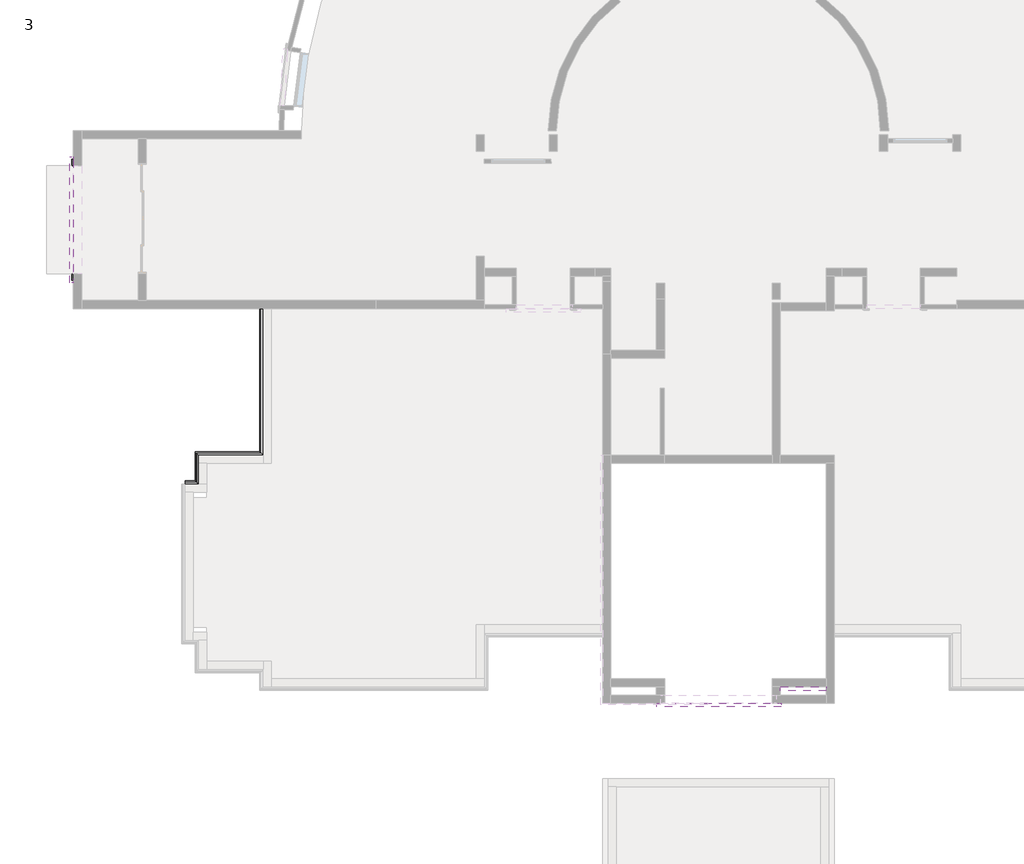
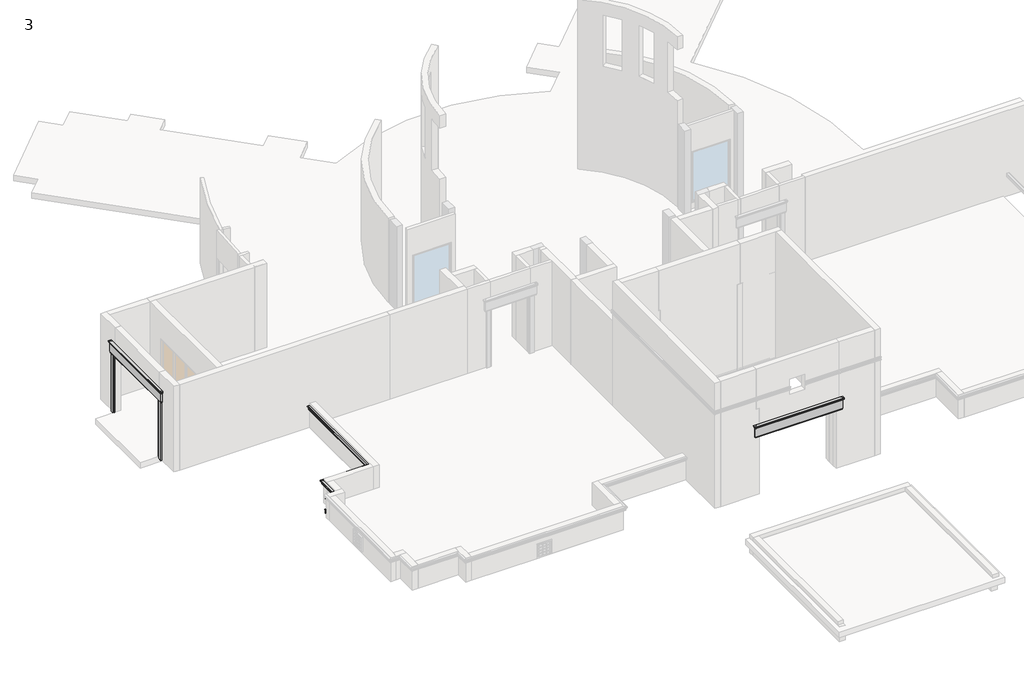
# One storey, part 6 of 12: 9 proxies.
"""IFC4 building model written with IfcOpenShell, lengths in millimetres."""

from ifc_helpers import new_model, si_unit, point, frame, frame_2d, origin, place, context, project, spatial, polyline, circle_curve, ellipse_curve, trimmed, segment, composite_curve, outline, extrude, element, save
from ifc_brep_helpers import plane_surface, cylinder_surface, revolved_surface, advanced_brep

model = new_model("IFC4")

# Units and contexts
model_context = context("Model", 3, world=origin())
ifc_project = project(units=[si_unit("LENGTHUNIT", "METRE", prefix="MILLI")], contexts=[model_context])

# Site, building, storey
site = spatial("IfcSite", under=ifc_project)
building = spatial("IfcBuilding", under=site)
storey = spatial("IfcBuildingStorey", under=building, Name="3", Elevation=3581.4)

# Proxies
placement = place(None, origin())
element("IfcBuildingElementProxy", 1, Name="Cornice", ObjectType="Cornice", at=placement, inside=storey, context=model_context, shape_type="SweptSolid", body=[
    extrude(outline(polyline([(-26637.5780453, -272.7681763), (-26637.5780453, -456.9181763), (-26675.6780453, -456.9181763), (-26675.6780453, -425.1681763), (-26688.3780453, -425.1681763), (-26688.3780453, -272.7681763), (-26637.5780453, -272.7681763)])), frame((0.0, 0.0, 3581.4), z_axis=(0.0, 0.0, 1.0), x_axis=(1.0, 0.0, 0.0)), (0.0, 0.0, 1.0), 2438.4),
])
element("IfcBuildingElementProxy", 2, Name="Cornice", ObjectType="Cornice", at=placement, inside=storey, context=model_context, shape_type="SweptSolid", body=[
    extrude(outline(polyline([(-26637.5780453, -3689.0681763), (-26688.3780453, -3689.0681763), (-26688.3780453, -3536.6681763), (-26675.6780453, -3536.6681763), (-26675.6780453, -3504.9181763), (-26637.5780453, -3504.9181763), (-26637.5780453, -3689.0681763)])), frame((0.0, 0.0, 3581.4), z_axis=(0.0, 0.0, 1.0), x_axis=(1.0, 0.0, 0.0)), (0.0, 0.0, 1.0), 2438.4),
])
element("IfcBuildingElementProxy", 3, Name="Cornice 2", ObjectType="Cornice 2", at=placement, inside=storey, context=model_context, shape_type="SweptSolid", body=[
    extrude(outline(composite_curve([segment(polyline([(-15310.3693311, 6819.9), (-15202.4193311, 6819.9), (-15202.4193311, 6324.6), (-15263.1124745, 6324.6), (-15263.1124745, 6369.05), (-15275.8124745, 6369.05), (-15275.8124745, 6724.65), (-15291.3193311, 6724.65), (-15291.3193311, 6743.7)]), True, "CONTINUOUS"), segment(trimmed(circle_curve(frame_2d((-15278.89139, 6769.1)), 28.2774419), [point((-15291.3193311, 6743.7))], [point((-15291.3193311, 6794.5))], False, "CARTESIAN"), True, "CONTINUOUS"), segment(polyline([(-15291.3193311, 6794.5), (-15310.3693311, 6794.5), (-15310.3693311, 6819.9)]), True, "CONTINUOUS")], self_intersect=False)), frame((-11436.5950906, 0.0, 0.0), z_axis=(1.0, 0.0, 0.0), x_axis=(0.0, 1.0, 0.0)), (0.0, 0.0, 1.0), 1295.2507056),
    extrude(outline(composite_curve([segment(polyline([(-15310.3693311, 6819.9), (-15202.4193311, 6819.9), (-15202.4193311, 6324.6), (-15263.1124745, 6324.6), (-15263.1124745, 6369.05), (-15275.8124745, 6369.05), (-15275.8124745, 6724.65), (-15291.3193311, 6724.65), (-15291.3193311, 6743.7)]), True, "CONTINUOUS"), segment(trimmed(circle_curve(frame_2d((-15278.89139, 6769.1)), 28.2774419), [point((-15291.3193311, 6743.7))], [point((-15291.3193311, 6794.5))], False, "CARTESIAN"), True, "CONTINUOUS"), segment(polyline([(-15291.3193311, 6794.5), (-15310.3693311, 6794.5), (-15310.3693311, 6819.9)]), True, "CONTINUOUS")], self_intersect=False)), frame((-6636.144385, 0.0, 0.0), z_axis=(1.0, 0.0, 0.0), x_axis=(0.0, 1.0, 0.0)), (0.0, 0.0, 1.0), 1295.5492944),
])
element("IfcBuildingElementProxy", 4, Name="Cornice 2", ObjectType="Cornice 2", at=placement, inside=storey, context=model_context, shape_type="AdvancedBrep", body=[
    advanced_brep(
    [(-26637.5780453, -3765.2681763, 6515.1), (-26637.5780453, -3765.2681763, 6489.7), (-26637.5780453, -3746.2181763, 6489.7), (-26637.5780453, -3746.2181763, 6438.9), (-26637.5780453, -3746.2181763, 6419.85), (-26637.5780453, -3730.7113196, 6419.85), (-26637.5780453, -3730.7113196, 6064.25), (-26637.5780453, -3718.0113196, 6064.25), (-26637.5780453, -3718.0113196, 6019.8), (-26637.5780453, -3657.3181763, 6019.8), (-26637.5780453, -3657.3181763, 6515.1), (-26745.5280453, -3765.2681763, 6515.1), (-26745.5280453, -3765.2681763, 6489.7), (-26726.4780453, -3746.2181763, 6489.7), (-26726.4780453, -3746.2181763, 6438.9), (-26726.4780453, -3746.2181763, 6419.85), (-26710.9711886, -3730.7113196, 6419.85), (-26710.9711886, -3730.7113196, 6064.25), (-26698.2711886, -3718.0113196, 6064.25), (-26698.2711886, -3718.0113196, 6019.8), (-26745.5280453, -196.5681763, 6515.1), (-26745.5280453, -196.5681763, 6489.7), (-26726.4780453, -215.6181763, 6489.7), (-26726.4780453, -215.6181763, 6438.9), (-26726.4780453, -215.6181763, 6419.85), (-26710.9711886, -231.1250329, 6419.85), (-26710.9711886, -231.1250329, 6064.25), (-26698.2711886, -243.8250329, 6064.25), (-26698.2711886, -243.8250329, 6019.8), (-26637.5780453, -304.5181763, 6019.8), (-26637.5780453, -304.5181763, 6515.1), (-26637.5780453, -196.5681763, 6515.1), (-26637.5780453, -243.8250329, 6019.8), (-26637.5780453, -243.8250329, 6064.25), (-26637.5780453, -231.1250329, 6064.25), (-26637.5780453, -231.1250329, 6419.85), (-26637.5780453, -215.6181763, 6419.85), (-26637.5780453, -215.6181763, 6438.9), (-26637.5780453, -215.6181763, 6489.7), (-26637.5780453, -196.5681763, 6489.7)],
    [
        (0, 1),
        (1, 2),
        (2, 3, circle_curve(frame((-26637.5780453, -3733.7902351, 6464.3), z_axis=(1.0, 0.0, 0.0), x_axis=(0.0, -1.0, 0.0)), 28.2774419)),
        (3, 4),
        (4, 5),
        (5, 6),
        (6, 7),
        (7, 8),
        (8, 9),
        (9, 10),
        (10, 0),
        (0, 11),
        (11, 12),
        (12, 1),
        (12, 13),
        (13, 2),
        (13, 14, ellipse_curve(frame((-26714.0501041, -3733.7902351, 6464.3), z_axis=(0.7071067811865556, -0.7071067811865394, 0.0), x_axis=(0.7071067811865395, 0.7071067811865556, 0.0)), 39.9903419, 28.2774419)),
        (14, 3),
        (14, 15),
        (15, 4),
        (15, 16),
        (16, 5),
        (16, 17),
        (17, 6),
        (17, 18),
        (18, 7),
        (18, 19),
        (19, 8),
        (19, 9),
        (10, 11),
        (11, 20),
        (20, 21),
        (21, 12),
        (21, 22),
        (22, 13),
        (22, 23, ellipse_curve(frame((-26714.0501041, -228.0461174, 6464.3), z_axis=(-0.7071067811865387, -0.7071067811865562, 0.0), x_axis=(0.7071067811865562, -0.7071067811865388, 0.0)), 39.9903419, 28.2774419)),
        (23, 14),
        (23, 24),
        (24, 15),
        (24, 25),
        (25, 16),
        (25, 26),
        (26, 17),
        (26, 27),
        (27, 18),
        (27, 28),
        (28, 19),
        (28, 29),
        (29, 9),
        (29, 30),
        (30, 10),
        (30, 20),
        (31, 30),
        (29, 32),
        (32, 33),
        (33, 34),
        (34, 35),
        (35, 36),
        (36, 37),
        (37, 38, circle_curve(frame((-26637.5780453, -228.0461174, 6464.3), z_axis=(1.0, 0.0, 0.0), x_axis=(0.0, 1.0, 0.0)), 28.2774419)),
        (38, 39),
        (39, 31),
        (20, 31),
        (39, 21),
        (38, 22),
        (37, 23),
        (36, 24),
        (35, 25),
        (34, 26),
        (33, 27),
        (32, 28),
    ],
    [
        plane_surface(frame((-26637.5780453, -3504.9181763, 6019.8), z_axis=(1.0, 0.0, 0.0), x_axis=(0.0, -1.0, 0.0))),
        plane_surface(frame((-26637.5780453, -3765.2681763, 6515.1), z_axis=(0.0, -1.0, 0.0), x_axis=(-1.0, 0.0, 0.0))),
        plane_surface(frame((-26637.5780453, -3765.2681763, 6489.7), z_axis=(0.0, 0.0, -1.0), x_axis=(-1.0, 0.0, 0.0))),
        cylinder_surface(frame((-26637.5780453, -3733.7902351, 6464.3), z_axis=(1.0, 0.0, 0.0), x_axis=(0.0, -1.0, 0.0)), 28.2774419),
        plane_surface(frame((-26637.5780453, -3746.2181763, 6438.9), z_axis=(0.0, -1.0, 0.0), x_axis=(-1.0, 0.0, 0.0))),
        plane_surface(frame((-26637.5780453, -3746.2181763, 6419.85), z_axis=(0.0, 0.0, -1.0), x_axis=(-1.0, 0.0, 0.0))),
        plane_surface(frame((-26637.5780453, -3730.7113196, 6419.85), z_axis=(0.0, -1.0, 0.0), x_axis=(-1.0, 0.0, 0.0))),
        plane_surface(frame((-26637.5780453, -3730.7113196, 6064.25), z_axis=(0.0, 0.0, -1.0), x_axis=(-1.0, 0.0, 0.0))),
        plane_surface(frame((-26637.5780453, -3718.0113196, 6064.25), z_axis=(0.0, -1.0, 0.0), x_axis=(-1.0, 0.0, 0.0))),
        plane_surface(frame((-26637.5780453, -3718.0113196, 6019.8), z_axis=(0.0, 0.0, -1.0), x_axis=(-1.0, 0.0, 0.0))),
        plane_surface(frame((-26637.5780453, -3657.3181763, 6515.1), z_axis=(0.0, 0.0, 1.0), x_axis=(-1.0, 0.0, 0.0))),
        plane_surface(frame((-26745.5280453, -3765.2681763, 6515.1), z_axis=(-1.0, 0.0, 0.0), x_axis=(0.0, 1.0, 0.0))),
        plane_surface(frame((-26745.5280453, -3765.2681763, 6489.7), z_axis=(0.0, 0.0, -1.0), x_axis=(0.0, 1.0, 0.0))),
        cylinder_surface(frame((-26714.0501041, -3657.3181763, 6464.3), z_axis=(0.0, -1.0, 0.0), x_axis=(-1.0, 0.0, 0.0)), 28.2774419),
        plane_surface(frame((-26726.4780453, -3746.2181763, 6438.9), z_axis=(-1.0, 0.0, 0.0), x_axis=(0.0, 1.0, 0.0))),
        plane_surface(frame((-26726.4780453, -3746.2181763, 6419.85), z_axis=(0.0, 0.0, -1.0), x_axis=(0.0, 1.0, 0.0))),
        plane_surface(frame((-26710.9711886, -3730.7113196, 6419.85), z_axis=(-1.0, 0.0, 0.0), x_axis=(0.0, 1.0, 0.0))),
        plane_surface(frame((-26710.9711886, -3730.7113196, 6064.25), z_axis=(0.0, 0.0, -1.0), x_axis=(0.0, 1.0, 0.0))),
        plane_surface(frame((-26698.2711886, -3718.0113196, 6064.25), z_axis=(-1.0, 0.0, 0.0), x_axis=(0.0, 1.0, 0.0))),
        plane_surface(frame((-26698.2711886, -3718.0113196, 6019.8), z_axis=(0.0, 0.0, -1.0), x_axis=(0.0, 1.0, 0.0))),
        plane_surface(frame((-26637.5780453, -3657.3181763, 6019.8), z_axis=(1.0, 0.0, 0.0), x_axis=(0.0, 1.0, 0.0))),
        plane_surface(frame((-26637.5780453, -3657.3181763, 6515.1), z_axis=(0.0, 0.0, 1.0), x_axis=(0.0, 1.0, 0.0))),
        plane_surface(frame((-26745.5280453, -196.5681763, 6515.1), z_axis=(0.0, 1.0, 0.0), x_axis=(1.0, 0.0, 0.0))),
        plane_surface(frame((-26745.5280453, -196.5681763, 6489.7), z_axis=(0.0, 0.0, -1.0), x_axis=(1.0, 0.0, 0.0))),
        cylinder_surface(frame((-26637.5780453, -228.0461174, 6464.3), z_axis=(-1.0, 0.0, 0.0), x_axis=(0.0, 1.0, 0.0)), 28.2774419),
        plane_surface(frame((-26726.4780453, -215.6181763, 6438.9), z_axis=(0.0, 1.0, 0.0), x_axis=(1.0, 0.0, 0.0))),
        plane_surface(frame((-26726.4780453, -215.6181763, 6419.85), z_axis=(0.0, 0.0, -1.0), x_axis=(1.0, 0.0, 0.0))),
        plane_surface(frame((-26710.9711886, -231.1250329, 6419.85), z_axis=(0.0, 1.0, 0.0), x_axis=(1.0, 0.0, 0.0))),
        plane_surface(frame((-26710.9711886, -231.1250329, 6064.25), z_axis=(0.0, 0.0, -1.0), x_axis=(1.0, 0.0, 0.0))),
        plane_surface(frame((-26698.2711886, -243.8250329, 6064.25), z_axis=(0.0, 1.0, 0.0), x_axis=(1.0, 0.0, 0.0))),
        plane_surface(frame((-26698.2711886, -243.8250329, 6019.8), z_axis=(0.0, 0.0, -1.0), x_axis=(1.0, 0.0, 0.0))),
        plane_surface(frame((-26637.5780453, -304.5181763, 6515.1), z_axis=(0.0, 0.0, 1.0), x_axis=(1.0, 0.0, 0.0))),
    ],
    [
        (0, [[1, 2, 3, 4, 5, 6, 7, 8, 9, 10, 11]]),
        (1, [[-1, 12, 13, 14]]),
        (2, [[-2, -14, 15, 16]]),
        (3, [[-3, -16, 17, 18]]),
        (4, [[-4, -18, 19, 20]]),
        (5, [[-5, -20, 21, 22]]),
        (6, [[-6, -22, 23, 24]]),
        (7, [[-7, -24, 25, 26]]),
        (8, [[-8, -26, 27, 28]]),
        (9, [[-9, -28, 29]]),
        (10, [[-11, 30, -12]]),
        (11, [[-13, 31, 32, 33]]),
        (12, [[-15, -33, 34, 35]]),
        (13, [[-17, -35, 36, 37]]),
        (14, [[-19, -37, 38, 39]]),
        (15, [[-21, -39, 40, 41]]),
        (16, [[-23, -41, 42, 43]]),
        (17, [[-25, -43, 44, 45]]),
        (18, [[-27, -45, 46, 47]]),
        (19, [[-29, -47, 48, 49]]),
        (20, [[-10, -49, 50, 51]]),
        (21, [[-30, -51, 52, -31]]),
        (0, [[53, -50, 54, 55, 56, 57, 58, 59, 60, 61, 62]]),
        (22, [[-32, 63, -62, 64]]),
        (23, [[-34, -64, -61, 65]]),
        (24, [[-36, -65, -60, 66]]),
        (25, [[-38, -66, -59, 67]]),
        (26, [[-40, -67, -58, 68]]),
        (27, [[-42, -68, -57, 69]]),
        (28, [[-44, -69, -56, 70]]),
        (29, [[-46, -70, -55, 71]]),
        (30, [[-48, -71, -54]]),
        (31, [[-52, -53, -63]]),
    ],
),
])
element("IfcBuildingElementProxy", 5, Name="Cornice 2", ObjectType="Cornice 2", at=placement, inside=storey, context=model_context, shape_type="AdvancedBrep", body=[
    advanced_brep(
    [(-10134.373379, -15659.6193311, 6515.1), (-10026.423379, -15659.6193311, 6515.1), (-10026.423379, -15659.6193311, 6019.8), (-10087.1165223, -15659.6193311, 6019.8), (-10087.1165223, -15659.6193311, 6064.25), (-10099.8165223, -15659.6193311, 6064.25), (-10099.8165223, -15659.6193311, 6419.85), (-10115.323379, -15659.6193311, 6419.85), (-10115.323379, -15659.6193311, 6438.9), (-10115.323379, -15659.6193311, 6489.7), (-10134.373379, -15659.6193311, 6489.7), (-10134.373379, -15767.5693311, 6515.1), (-10087.1165223, -15720.3124745, 6019.8), (-10087.1165223, -15720.3124745, 6064.25), (-10099.8165223, -15733.0124745, 6064.25), (-10099.8165223, -15733.0124745, 6419.85), (-10115.323379, -15748.5193311, 6419.85), (-10115.323379, -15748.5193311, 6438.9), (-10115.323379, -15748.5193311, 6489.7), (-10134.373379, -15767.5693311, 6489.7), (-6604.394385, -15767.5693311, 6515.1), (-6712.344385, -15659.6193311, 6515.1), (-6712.344385, -15659.6193311, 6019.8), (-6651.6512417, -15720.3124745, 6019.8), (-6651.6512417, -15720.3124745, 6064.25), (-6638.9512417, -15733.0124745, 6064.25), (-6638.9512417, -15733.0124745, 6419.85), (-6623.444385, -15748.5193311, 6419.85), (-6623.444385, -15748.5193311, 6438.9), (-6623.444385, -15748.5193311, 6489.7), (-6604.394385, -15767.5693311, 6489.7), (-6604.394385, -15659.6193311, 6515.1), (-6604.394385, -15659.6193311, 6489.7), (-6623.444385, -15659.6193311, 6489.7), (-6623.444385, -15659.6193311, 6438.9), (-6623.444385, -15659.6193311, 6419.85), (-6638.9512417, -15659.6193311, 6419.85), (-6638.9512417, -15659.6193311, 6064.25), (-6651.6512417, -15659.6193311, 6064.25), (-6651.6512417, -15659.6193311, 6019.8)],
    [
        (0, 1),
        (1, 2),
        (2, 3),
        (3, 4),
        (4, 5),
        (5, 6),
        (6, 7),
        (7, 8),
        (8, 9, circle_curve(frame((-10102.8954378, -15659.6193311, 6464.3), z_axis=(0.0, 1.0, 0.0), x_axis=(-1.0, 0.0, 0.0)), 28.2774419)),
        (9, 10),
        (10, 0),
        (0, 11),
        (11, 1),
        (2, 12),
        (12, 3),
        (12, 13),
        (13, 4),
        (13, 14),
        (14, 5),
        (14, 15),
        (15, 6),
        (15, 16),
        (16, 7),
        (16, 17),
        (17, 8),
        (17, 18, ellipse_curve(frame((-10102.8954378, -15736.09139, 6464.3), z_axis=(-0.7071067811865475, 0.7071067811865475, 0.0), x_axis=(0.7071067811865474, 0.7071067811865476, 0.0)), 39.9903419, 28.2774419)),
        (18, 9),
        (18, 19),
        (19, 10),
        (19, 11),
        (11, 20),
        (20, 21),
        (21, 1),
        (21, 22),
        (22, 2),
        (22, 23),
        (23, 12),
        (23, 24),
        (24, 13),
        (24, 25),
        (25, 14),
        (25, 26),
        (26, 15),
        (26, 27),
        (27, 16),
        (27, 28),
        (28, 17),
        (28, 29, ellipse_curve(frame((-6635.8723262, -15736.09139, 6464.3), z_axis=(-0.7071067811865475, -0.7071067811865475, 0.0), x_axis=(-0.7071067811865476, 0.7071067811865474, 0.0)), 39.9903419, 28.2774419)),
        (29, 18),
        (29, 30),
        (30, 19),
        (30, 20),
        (31, 32),
        (32, 33),
        (33, 34, circle_curve(frame((-6635.8723262, -15659.6193311, 6464.3), z_axis=(0.0, 1.0, 0.0), x_axis=(1.0, 0.0, 0.0)), 28.2774419)),
        (34, 35),
        (35, 36),
        (36, 37),
        (37, 38),
        (38, 39),
        (39, 22),
        (21, 31),
        (20, 31),
        (39, 23),
        (38, 24),
        (37, 25),
        (36, 26),
        (35, 27),
        (34, 28),
        (33, 29),
        (32, 30),
    ],
    [
        plane_surface(frame((-10027.044385, -15659.6193311, 6019.8), z_axis=(0.0, 1.0, 0.0), x_axis=(1.0, 0.0, 0.0))),
        plane_surface(frame((-10134.373379, -15659.6193311, 6515.1), z_axis=(0.0, 0.0, 1.0), x_axis=(0.0, -1.0, 0.0))),
        plane_surface(frame((-10026.423379, -15659.6193311, 6019.8), z_axis=(0.0, 0.0, -1.0), x_axis=(0.0, -1.0, 0.0))),
        plane_surface(frame((-10087.1165223, -15659.6193311, 6019.8), z_axis=(-1.0, 0.0, 0.0), x_axis=(0.0, -1.0, 0.0))),
        plane_surface(frame((-10087.1165223, -15659.6193311, 6064.25), z_axis=(0.0, 0.0, -1.0), x_axis=(0.0, -1.0, 0.0))),
        plane_surface(frame((-10099.8165223, -15659.6193311, 6064.25), z_axis=(-1.0, 0.0, 0.0), x_axis=(0.0, -1.0, 0.0))),
        plane_surface(frame((-10099.8165223, -15659.6193311, 6419.85), z_axis=(0.0, 0.0, -1.0), x_axis=(0.0, -1.0, 0.0))),
        plane_surface(frame((-10115.323379, -15659.6193311, 6419.85), z_axis=(-1.0, 0.0, 0.0), x_axis=(0.0, -1.0, 0.0))),
        cylinder_surface(frame((-10102.8954378, -15659.6193311, 6464.3), z_axis=(0.0, 1.0, 0.0), x_axis=(-1.0, 0.0, 0.0)), 28.2774419),
        plane_surface(frame((-10115.323379, -15659.6193311, 6489.7), z_axis=(0.0, 0.0, -1.0), x_axis=(0.0, -1.0, 0.0))),
        plane_surface(frame((-10134.373379, -15659.6193311, 6489.7), z_axis=(-1.0, 0.0, 0.0), x_axis=(0.0, -1.0, 0.0))),
        plane_surface(frame((-10134.373379, -15767.5693311, 6515.1), z_axis=(0.0, 0.0, 1.0), x_axis=(1.0, 0.0, 0.0))),
        plane_surface(frame((-10026.423379, -15659.6193311, 6515.1), z_axis=(0.0, 1.0, 0.0), x_axis=(1.0, 0.0, 0.0))),
        plane_surface(frame((-10026.423379, -15659.6193311, 6019.8), z_axis=(0.0, 0.0, -1.0), x_axis=(1.0, 0.0, 0.0))),
        plane_surface(frame((-10087.1165223, -15720.3124745, 6019.8), z_axis=(0.0, -1.0, 0.0), x_axis=(1.0, 0.0, 0.0))),
        plane_surface(frame((-10087.1165223, -15720.3124745, 6064.25), z_axis=(0.0, 0.0, -1.0), x_axis=(1.0, 0.0, 0.0))),
        plane_surface(frame((-10099.8165223, -15733.0124745, 6064.25), z_axis=(0.0, -1.0, 0.0), x_axis=(1.0, 0.0, 0.0))),
        plane_surface(frame((-10099.8165223, -15733.0124745, 6419.85), z_axis=(0.0, 0.0, -1.0), x_axis=(1.0, 0.0, 0.0))),
        plane_surface(frame((-10115.323379, -15748.5193311, 6419.85), z_axis=(0.0, -1.0, 0.0), x_axis=(1.0, 0.0, 0.0))),
        cylinder_surface(frame((-10026.423379, -15736.09139, 6464.3), z_axis=(-1.0, 0.0, 0.0), x_axis=(0.0, -1.0, 0.0)), 28.2774419),
        plane_surface(frame((-10115.323379, -15748.5193311, 6489.7), z_axis=(0.0, 0.0, -1.0), x_axis=(1.0, 0.0, 0.0))),
        plane_surface(frame((-10134.373379, -15767.5693311, 6489.7), z_axis=(0.0, -1.0, 0.0), x_axis=(1.0, 0.0, 0.0))),
        plane_surface(frame((-6604.394385, -15767.5693311, 6515.1), z_axis=(0.0, 0.0, 1.0), x_axis=(0.0, 1.0, 0.0))),
        plane_surface(frame((-6712.344385, -15659.6193311, 6019.8), z_axis=(0.0, 0.0, -1.0), x_axis=(0.0, 1.0, 0.0))),
        plane_surface(frame((-6651.6512417, -15720.3124745, 6019.8), z_axis=(1.0, 0.0, 0.0), x_axis=(0.0, 1.0, 0.0))),
        plane_surface(frame((-6651.6512417, -15720.3124745, 6064.25), z_axis=(0.0, 0.0, -1.0), x_axis=(0.0, 1.0, 0.0))),
        plane_surface(frame((-6638.9512417, -15733.0124745, 6064.25), z_axis=(1.0, 0.0, 0.0), x_axis=(0.0, 1.0, 0.0))),
        plane_surface(frame((-6638.9512417, -15733.0124745, 6419.85), z_axis=(0.0, 0.0, -1.0), x_axis=(0.0, 1.0, 0.0))),
        plane_surface(frame((-6623.444385, -15748.5193311, 6419.85), z_axis=(1.0, 0.0, 0.0), x_axis=(0.0, 1.0, 0.0))),
        cylinder_surface(frame((-6635.8723262, -15659.6193311, 6464.3), z_axis=(0.0, -1.0, 0.0), x_axis=(1.0, 0.0, 0.0)), 28.2774419),
        plane_surface(frame((-6623.444385, -15748.5193311, 6489.7), z_axis=(0.0, 0.0, -1.0), x_axis=(0.0, 1.0, 0.0))),
        plane_surface(frame((-6604.394385, -15767.5693311, 6489.7), z_axis=(1.0, 0.0, 0.0), x_axis=(0.0, 1.0, 0.0))),
    ],
    [
        (0, [[1, 2, 3, 4, 5, 6, 7, 8, 9, 10, 11]]),
        (1, [[-1, 12, 13]]),
        (2, [[-3, 14, 15]]),
        (3, [[-4, -15, 16, 17]]),
        (4, [[-5, -17, 18, 19]]),
        (5, [[-6, -19, 20, 21]]),
        (6, [[-7, -21, 22, 23]]),
        (7, [[-8, -23, 24, 25]]),
        (8, [[-9, -25, 26, 27]]),
        (9, [[-10, -27, 28, 29]]),
        (10, [[-11, -29, 30, -12]]),
        (11, [[-13, 31, 32, 33]]),
        (12, [[-2, -33, 34, 35]]),
        (13, [[-14, -35, 36, 37]]),
        (14, [[-16, -37, 38, 39]]),
        (15, [[-18, -39, 40, 41]]),
        (16, [[-20, -41, 42, 43]]),
        (17, [[-22, -43, 44, 45]]),
        (18, [[-24, -45, 46, 47]]),
        (19, [[-26, -47, 48, 49]]),
        (20, [[-28, -49, 50, 51]]),
        (21, [[-30, -51, 52, -31]]),
        (0, [[53, 54, 55, 56, 57, 58, 59, 60, 61, -34, 62]]),
        (22, [[-32, 63, -62]]),
        (23, [[-36, -61, 64]]),
        (24, [[-38, -64, -60, 65]]),
        (25, [[-40, -65, -59, 66]]),
        (26, [[-42, -66, -58, 67]]),
        (27, [[-44, -67, -57, 68]]),
        (28, [[-46, -68, -56, 69]]),
        (29, [[-48, -69, -55, 70]]),
        (30, [[-50, -70, -54, 71]]),
        (31, [[-52, -71, -53, -63]]),
    ],
),
])
element("IfcBuildingElementProxy", 6, Name="Cornice 3", ObjectType="Cornice 3", at=placement, inside=storey, context=model_context, shape_type="AdvancedBrep", body=[
    advanced_brep(
    [(-23171.3950906, -8573.0193311, 4495.8), (-23095.1950906, -8649.2193311, 4495.8), (-23095.1950906, -8649.2193311, 4343.4), (-23145.9950906, -8598.4193311, 4343.4), (-23145.9950906, -8598.4193311, 4362.45), (-23145.9950906, -8598.4193311, 4381.5), (-23145.9950906, -8598.4193311, 4406.9), (-23153.1388406, -8591.2755811, 4406.9), (-23171.3950906, -8573.0193311, 4436.3009114), (-23171.3950906, -8573.0193311, 4451.35), (-23171.3950906, -9391.3681763, 4495.8), (-23171.3950906, -9391.3681763, 4451.35), (-23171.3950906, -9391.3681763, 4436.3009114), (-23153.1388406, -9409.6244263, 4406.9), (-23145.9950906, -9416.7681763, 4406.9), (-23145.9950906, -9416.7681763, 4381.5), (-23145.9950906, -9416.7681763, 4362.45), (-23145.9950906, -9416.7681763, 4343.4), (-23095.1950906, -9467.5681763, 4343.4), (-23095.1950906, -9467.5681763, 4495.8)],
    [
        (0, 1),
        (1, 2),
        (2, 3),
        (3, 4),
        (4, 5, ellipse_curve(frame((-23145.9950906, -8598.4193311, 4371.975), z_axis=(0.707106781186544, 0.7071067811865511, 0.0), x_axis=(-0.7071067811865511, 0.7071067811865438, 0.0)), 13.4703842, 9.525)),
        (5, 6),
        (6, 7),
        (7, 8, ellipse_curve(frame((-23174.651489, -8569.7629327, 4413.9103895), z_axis=(-0.707106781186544, -0.7071067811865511, 0.0), x_axis=(0.7071067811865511, -0.7071067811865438, 0.0)), 31.9981126, 22.6260824)),
        (8, 9),
        (9, 0, ellipse_curve(frame((-23171.3950906, -8573.0193311, 4473.575), z_axis=(0.707106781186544, 0.7071067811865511, 0.0), x_axis=(-0.7071067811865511, 0.7071067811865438, 0.0)), 31.4308964, 22.225)),
        (10, 11, ellipse_curve(frame((-23171.3950906, -9391.3681763, 4473.575), z_axis=(-0.707106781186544, -0.7071067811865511, 0.0), x_axis=(-0.7071067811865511, 0.7071067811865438, 0.0)), 31.4308964, 22.225)),
        (11, 12),
        (12, 13, ellipse_curve(frame((-23174.651489, -9388.1117778, 4413.9103895), z_axis=(0.707106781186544, 0.7071067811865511, 0.0), x_axis=(0.7071067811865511, -0.7071067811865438, 0.0)), 31.9981126, 22.6260824)),
        (13, 14),
        (14, 15),
        (15, 16, ellipse_curve(frame((-23145.9950906, -9416.7681763, 4371.975), z_axis=(-0.707106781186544, -0.7071067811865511, 0.0), x_axis=(-0.7071067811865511, 0.7071067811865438, 0.0)), 13.4703842, 9.525)),
        (16, 17),
        (17, 18),
        (18, 19),
        (19, 10),
        (0, 10),
        (19, 1),
        (18, 2),
        (17, 3),
        (16, 4),
        (15, 5),
        (14, 6),
        (13, 7),
        (12, 8),
        (11, 9),
    ],
    [
        plane_surface(frame((-23095.1950906, -8649.2193311, 4038.6), z_axis=(0.707106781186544, 0.7071067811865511, 0.0), x_axis=(0.7071067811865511, -0.707106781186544, 0.0))),
        plane_surface(frame((-23095.1950906, -9467.5681763, 4648.2), z_axis=(-0.707106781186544, -0.7071067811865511, 0.0), x_axis=(-0.7071067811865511, 0.707106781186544, 0.0))),
        plane_surface(frame((-23171.3950906, -8573.0193311, 4495.8), z_axis=(0.0, 0.0, 1.0), x_axis=(0.0, -1.0, 0.0))),
        plane_surface(frame((-23095.1950906, -8649.2193311, 4495.8), z_axis=(1.0, 0.0, 0.0), x_axis=(0.0, -1.0, 0.0))),
        plane_surface(frame((-23095.1950906, -8649.2193311, 4343.4), z_axis=(0.0, 0.0, -1.0), x_axis=(0.0, -1.0, 0.0))),
        plane_surface(frame((-23145.9950906, -8598.4193311, 4343.4), z_axis=(-1.0, 0.0, 0.0), x_axis=(0.0, -1.0, 0.0))),
        cylinder_surface(frame((-23145.9950906, -8649.2193311, 4371.975), z_axis=(0.0, 1.0, 0.0), x_axis=(1.0, 0.0, 0.0)), 9.525),
        plane_surface(frame((-23145.9950906, -8598.4193311, 4381.5), z_axis=(-1.0, 0.0, 0.0), x_axis=(0.0, -1.0, 0.0))),
        plane_surface(frame((-23145.9950906, -8598.4193311, 4406.9), z_axis=(0.0, 0.0, -1.0), x_axis=(0.0, -1.0, 0.0))),
        revolved_surface(polyline([(-23152.0254066, -9410.737860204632, 4413.9103895), (-23152.0254066, -8547.136850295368, 4413.9103895)]), (-23174.651489, -8649.2193311, 4413.9103895), (0.0, -1.0, 0.0)),
        plane_surface(frame((-23171.3950906, -8573.0193311, 4436.3009114), z_axis=(-1.0, 0.0, 0.0), x_axis=(0.0, -1.0, 0.0))),
        cylinder_surface(frame((-23171.3950906, -8649.2193311, 4473.575), z_axis=(0.0, 1.0, 0.0), x_axis=(1.0, 0.0, 0.0)), 22.225),
    ],
    [
        (0, [[1, 2, 3, 4, 5, 6, 7, 8, 9, 10]]),
        (1, [[11, 12, 13, 14, 15, 16, 17, 18, 19, 20]]),
        (2, [[-1, 21, -20, 22]]),
        (3, [[-2, -22, -19, 23]]),
        (4, [[-3, -23, -18, 24]]),
        (5, [[-4, -24, -17, 25]]),
        (6, [[-5, -25, -16, 26]]),
        (7, [[-6, -26, -15, 27]]),
        (8, [[-7, -27, -14, 28]]),
        (9, [[-8, -28, -13, 29]]),
        (10, [[-9, -29, -12, 30]]),
        (11, [[-10, -30, -11, -21]]),
    ],
),
    advanced_brep(
    [(-21342.5950906, -4496.3193311, 4495.8), (-21266.3950906, -4496.3193311, 4495.8), (-21266.3950906, -4496.3193311, 4343.4), (-21317.1950906, -4496.3193311, 4343.4), (-21317.1950906, -4496.3193311, 4362.45), (-21317.1950906, -4496.3193311, 4381.5), (-21317.1950906, -4496.3193311, 4406.9), (-21324.3388406, -4496.3193311, 4406.9), (-21342.5950906, -4496.3193311, 4436.3009114), (-21342.5950906, -4496.3193311, 4451.35), (-21342.5950906, -8573.0193311, 4495.8), (-21342.5950906, -8573.0193311, 4451.35), (-21342.5950906, -8573.0193311, 4436.3009114), (-21324.3388406, -8591.2755811, 4406.9), (-21317.1950906, -8598.4193311, 4406.9), (-21317.1950906, -8598.4193311, 4381.5), (-21317.1950906, -8598.4193311, 4362.45), (-21317.1950906, -8598.4193311, 4343.4), (-21266.3950906, -8649.2193311, 4343.4), (-21266.3950906, -8649.2193311, 4495.8)],
    [
        (0, 1),
        (1, 2),
        (2, 3),
        (3, 4),
        (4, 5, circle_curve(frame((-21317.1950906, -4496.3193311, 4371.975), z_axis=(0.0, 1.0, 0.0), x_axis=(1.0, 0.0, 0.0)), 9.525)),
        (5, 6),
        (6, 7),
        (7, 8, circle_curve(frame((-21345.851489, -4496.3193311, 4413.9103895), z_axis=(0.0, -1.0, 0.0), x_axis=(1.0, 0.0, 0.0)), 22.6260824)),
        (8, 9),
        (9, 0, circle_curve(frame((-21342.5950906, -4496.3193311, 4473.575), z_axis=(0.0, 1.0, 0.0), x_axis=(1.0, 0.0, 0.0)), 22.225)),
        (10, 11, ellipse_curve(frame((-21342.5950906, -8573.0193311, 4473.575), z_axis=(-0.7071067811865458, -0.7071067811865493, 0.0), x_axis=(-0.7071067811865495, 0.7071067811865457, 0.0)), 31.4308964, 22.225)),
        (11, 12),
        (12, 13, ellipse_curve(frame((-21345.851489, -8569.7629327, 4413.9103895), z_axis=(0.7071067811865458, 0.7071067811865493, 0.0), x_axis=(0.7071067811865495, -0.7071067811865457, 0.0)), 31.9981126, 22.6260824)),
        (13, 14),
        (14, 15),
        (15, 16, ellipse_curve(frame((-21317.1950906, -8598.4193311, 4371.975), z_axis=(-0.7071067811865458, -0.7071067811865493, 0.0), x_axis=(-0.7071067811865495, 0.7071067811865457, 0.0)), 13.4703842, 9.525)),
        (16, 17),
        (17, 18),
        (18, 19),
        (19, 10),
        (0, 10),
        (19, 1),
        (18, 2),
        (17, 3),
        (16, 4),
        (15, 5),
        (14, 6),
        (13, 7),
        (12, 8),
        (11, 9),
    ],
    [
        plane_surface(frame((-21439.3632976, -4496.3193311, 4343.4), z_axis=(0.0, 1.0, 0.0), x_axis=(0.0, 0.0, -1.0))),
        plane_surface(frame((-21266.3950906, -8649.2193311, 4648.2), z_axis=(-0.7071067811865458, -0.7071067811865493, 0.0), x_axis=(-0.7071067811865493, 0.7071067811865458, 0.0))),
        plane_surface(frame((-21342.5950906, -4496.3193311, 4495.8), z_axis=(0.0, 0.0, 1.0), x_axis=(0.0, -1.0, 0.0))),
        plane_surface(frame((-21266.3950906, -4496.3193311, 4495.8), z_axis=(1.0, 0.0, 0.0), x_axis=(0.0, -1.0, 0.0))),
        plane_surface(frame((-21266.3950906, -4496.3193311, 4343.4), z_axis=(0.0, 0.0, -1.0), x_axis=(0.0, -1.0, 0.0))),
        plane_surface(frame((-21317.1950906, -4496.3193311, 4343.4), z_axis=(-1.0, 0.0, 0.0), x_axis=(0.0, -1.0, 0.0))),
        cylinder_surface(frame((-21317.1950906, -4496.3193311, 4371.975), z_axis=(0.0, 1.0, 0.0), x_axis=(1.0, 0.0, 0.0)), 9.525),
        plane_surface(frame((-21317.1950906, -4496.3193311, 4381.5), z_axis=(-1.0, 0.0, 0.0), x_axis=(0.0, -1.0, 0.0))),
        plane_surface(frame((-21317.1950906, -4496.3193311, 4406.9), z_axis=(0.0, 0.0, -1.0), x_axis=(0.0, -1.0, 0.0))),
        revolved_surface(polyline([(-21323.225406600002, -8592.389015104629, 4413.9103895), (-21323.225406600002, -4496.3193311, 4413.9103895)]), (-21345.851489, -4496.3193311, 4413.9103895), (0.0, -1.0, 0.0)),
        plane_surface(frame((-21342.5950906, -4496.3193311, 4436.3009114), z_axis=(-1.0, 0.0, 0.0), x_axis=(0.0, -1.0, 0.0))),
        cylinder_surface(frame((-21342.5950906, -4496.3193311, 4473.575), z_axis=(0.0, 1.0, 0.0), x_axis=(1.0, 0.0, 0.0)), 22.225),
    ],
    [
        (0, [[1, 2, 3, 4, 5, 6, 7, 8, 9, 10]]),
        (1, [[11, 12, 13, 14, 15, 16, 17, 18, 19, 20]]),
        (2, [[-1, 21, -20, 22]]),
        (3, [[-2, -22, -19, 23]]),
        (4, [[-3, -23, -18, 24]]),
        (5, [[-4, -24, -17, 25]]),
        (6, [[-5, -25, -16, 26]]),
        (7, [[-6, -26, -15, 27]]),
        (8, [[-7, -27, -14, 28]]),
        (9, [[-8, -28, -13, 29]]),
        (10, [[-9, -29, -12, 30]]),
        (11, [[-10, -30, -11, -21]]),
    ],
),
])
element("IfcBuildingElementProxy", 7, Name="Cornice 3", ObjectType="Cornice 3", at=placement, inside=storey, context=model_context, shape_type="AdvancedBrep", body=[
    advanced_brep(
    [(-21342.5950906, -8573.0193311, 4495.8), (-21266.3950906, -8649.2193311, 4495.8), (-21266.3950906, -8649.2193311, 4343.4), (-21317.1950906, -8598.4193311, 4343.4), (-21317.1950906, -8598.4193311, 4362.45), (-21317.1950906, -8598.4193311, 4381.5), (-21317.1950906, -8598.4193311, 4406.9), (-21324.3388406, -8591.2755811, 4406.9), (-21342.5950906, -8573.0193311, 4436.3009114), (-21342.5950906, -8573.0193311, 4451.35), (-23171.3950906, -8573.0193311, 4495.8), (-23171.3950906, -8573.0193311, 4451.35), (-23171.3950906, -8573.0193311, 4436.3009114), (-23153.1388406, -8591.2755811, 4406.9), (-23145.9950906, -8598.4193311, 4406.9), (-23145.9950906, -8598.4193311, 4381.5), (-23145.9950906, -8598.4193311, 4362.45), (-23145.9950906, -8598.4193311, 4343.4), (-23095.1950906, -8649.2193311, 4343.4), (-23095.1950906, -8649.2193311, 4495.8)],
    [
        (0, 1),
        (1, 2),
        (2, 3),
        (3, 4),
        (4, 5, ellipse_curve(frame((-21317.1950906, -8598.4193311, 4371.975), z_axis=(0.7071067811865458, 0.7071067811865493, 0.0), x_axis=(0.7071067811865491, -0.7071067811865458, 0.0)), 13.4703842, 9.525)),
        (5, 6),
        (6, 7),
        (7, 8, ellipse_curve(frame((-21345.851489, -8569.7629327, 4413.9103895), z_axis=(-0.7071067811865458, -0.7071067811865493, 0.0), x_axis=(-0.7071067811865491, 0.7071067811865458, 0.0)), 31.9981126, 22.6260824)),
        (8, 9),
        (9, 0, ellipse_curve(frame((-21342.5950906, -8573.0193311, 4473.575), z_axis=(0.7071067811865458, 0.7071067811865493, 0.0), x_axis=(0.7071067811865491, -0.7071067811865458, 0.0)), 31.4308964, 22.225)),
        (10, 11, ellipse_curve(frame((-23171.3950906, -8573.0193311, 4473.575), z_axis=(-0.707106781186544, -0.7071067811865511, 0.0), x_axis=(0.7071067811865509, -0.7071067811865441, 0.0)), 31.4308964, 22.225)),
        (11, 12),
        (12, 13, ellipse_curve(frame((-23174.651489, -8569.7629327, 4413.9103895), z_axis=(0.707106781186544, 0.7071067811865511, 0.0), x_axis=(-0.7071067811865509, 0.7071067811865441, 0.0)), 31.9981126, 22.6260824)),
        (13, 14),
        (14, 15),
        (15, 16, ellipse_curve(frame((-23145.9950906, -8598.4193311, 4371.975), z_axis=(-0.707106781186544, -0.7071067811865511, 0.0), x_axis=(0.7071067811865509, -0.7071067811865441, 0.0)), 13.4703842, 9.525)),
        (16, 17),
        (17, 18),
        (18, 19),
        (19, 10),
        (0, 10),
        (19, 1),
        (18, 2),
        (17, 3),
        (16, 4),
        (15, 5),
        (14, 6),
        (13, 7),
        (12, 8),
        (11, 9),
    ],
    [
        plane_surface(frame((-21266.3950906, -8649.2193311, 4648.2), z_axis=(0.7071067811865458, 0.7071067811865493, 0.0), x_axis=(-0.7071067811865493, 0.7071067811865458, 0.0))),
        plane_surface(frame((-23095.1950906, -8649.2193311, 4038.6), z_axis=(-0.707106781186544, -0.7071067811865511, 0.0), x_axis=(0.7071067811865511, -0.707106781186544, 0.0))),
        plane_surface(frame((-21342.5950906, -8573.0193311, 4495.8), z_axis=(0.0, 0.0, 1.0), x_axis=(-1.0, 0.0, 0.0))),
        plane_surface(frame((-21266.3950906, -8649.2193311, 4495.8), z_axis=(0.0, -1.0, 0.0), x_axis=(-1.0, 0.0, 0.0))),
        plane_surface(frame((-21266.3950906, -8649.2193311, 4343.4), z_axis=(0.0, 0.0, -1.0), x_axis=(-1.0, 0.0, 0.0))),
        plane_surface(frame((-21317.1950906, -8598.4193311, 4343.4), z_axis=(0.0, 1.0, 0.0), x_axis=(-1.0, 0.0, 0.0))),
        cylinder_surface(frame((-21266.3950906, -8598.4193311, 4371.975), z_axis=(1.0, 0.0, 0.0), x_axis=(0.0, -1.0, 0.0)), 9.525),
        plane_surface(frame((-21317.1950906, -8598.4193311, 4381.5), z_axis=(0.0, 1.0, 0.0), x_axis=(-1.0, 0.0, 0.0))),
        plane_surface(frame((-21317.1950906, -8598.4193311, 4406.9), z_axis=(0.0, 0.0, -1.0), x_axis=(-1.0, 0.0, 0.0))),
        revolved_surface(polyline([(-23197.27757140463, -8592.3890151, 4413.9103895), (-21323.22540659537, -8592.3890151, 4413.9103895)]), (-21266.3950906, -8569.7629327, 4413.9103895), (-1.0, 0.0, 0.0)),
        plane_surface(frame((-21342.5950906, -8573.0193311, 4436.3009114), z_axis=(0.0, 1.0, 0.0), x_axis=(-1.0, 0.0, 0.0))),
        cylinder_surface(frame((-21266.3950906, -8573.0193311, 4473.575), z_axis=(1.0, 0.0, 0.0), x_axis=(0.0, -1.0, 0.0)), 22.225),
    ],
    [
        (0, [[1, 2, 3, 4, 5, 6, 7, 8, 9, 10]]),
        (1, [[11, 12, 13, 14, 15, 16, 17, 18, 19, 20]]),
        (2, [[-1, 21, -20, 22]]),
        (3, [[-2, -22, -19, 23]]),
        (4, [[-3, -23, -18, 24]]),
        (5, [[-4, -24, -17, 25]]),
        (6, [[-5, -25, -16, 26]]),
        (7, [[-6, -26, -15, 27]]),
        (8, [[-7, -27, -14, 28]]),
        (9, [[-8, -28, -13, 29]]),
        (10, [[-9, -29, -12, 30]]),
        (11, [[-10, -30, -11, -21]]),
    ],
),
])
element("IfcBuildingElementProxy", 8, Name="Cornice 3", ObjectType="Cornice 3", at=placement, inside=storey, context=model_context, shape_type="AdvancedBrep", body=[
    advanced_brep(
    [(-23171.3950906, -9391.3681763, 4495.8), (-23095.1950906, -9467.5681763, 4495.8), (-23095.1950906, -9467.5681763, 4343.4), (-23145.9950906, -9416.7681763, 4343.4), (-23145.9950906, -9416.7681763, 4362.45), (-23145.9950906, -9416.7681763, 4381.5), (-23145.9950906, -9416.7681763, 4406.9), (-23153.1388406, -9409.6244263, 4406.9), (-23171.3950906, -9391.3681763, 4436.3009114), (-23171.3950906, -9391.3681763, 4451.35), (-23476.3608197, -9391.3681763, 4495.8), (-23476.3608197, -9391.3681763, 4451.35), (-23476.3608197, -9391.3681763, 4436.3009114), (-23476.3608197, -9409.6244263, 4406.9), (-23476.3608197, -9416.7681763, 4406.9), (-23476.3608197, -9416.7681763, 4381.5), (-23476.3608197, -9416.7681763, 4362.45), (-23476.3608197, -9416.7681763, 4343.4), (-23476.3608197, -9467.5681763, 4343.4), (-23476.3608197, -9467.5681763, 4495.8)],
    [
        (0, 1),
        (1, 2),
        (2, 3),
        (3, 4),
        (4, 5, ellipse_curve(frame((-23145.9950906, -9416.7681763, 4371.975), z_axis=(0.707106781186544, 0.7071067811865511, 0.0), x_axis=(0.7071067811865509, -0.7071067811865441, 0.0)), 13.4703842, 9.525)),
        (5, 6),
        (6, 7),
        (7, 8, ellipse_curve(frame((-23174.651489, -9388.1117778, 4413.9103895), z_axis=(-0.707106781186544, -0.7071067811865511, 0.0), x_axis=(-0.7071067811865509, 0.7071067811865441, 0.0)), 31.9981126, 22.6260824)),
        (8, 9),
        (9, 0, ellipse_curve(frame((-23171.3950906, -9391.3681763, 4473.575), z_axis=(0.707106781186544, 0.7071067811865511, 0.0), x_axis=(0.7071067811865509, -0.7071067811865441, 0.0)), 31.4308964, 22.225)),
        (10, 11, circle_curve(frame((-23476.3608197, -9391.3681763, 4473.575), z_axis=(-1.0, 0.0, 0.0), x_axis=(0.0, -1.0, 0.0)), 22.225)),
        (11, 12),
        (12, 13, circle_curve(frame((-23476.3608197, -9388.1117778, 4413.9103895), z_axis=(1.0, 0.0, 0.0), x_axis=(0.0, -1.0, 0.0)), 22.6260824)),
        (13, 14),
        (14, 15),
        (15, 16, circle_curve(frame((-23476.3608197, -9416.7681763, 4371.975), z_axis=(-1.0, 0.0, 0.0), x_axis=(0.0, -1.0, 0.0)), 9.525)),
        (16, 17),
        (17, 18),
        (18, 19),
        (19, 10),
        (0, 10),
        (19, 1),
        (18, 2),
        (17, 3),
        (16, 4),
        (15, 5),
        (14, 6),
        (13, 7),
        (12, 8),
        (11, 9),
    ],
    [
        plane_surface(frame((-23095.1950906, -9467.5681763, 4648.2), z_axis=(0.707106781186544, 0.7071067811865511, 0.0), x_axis=(-0.7071067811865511, 0.707106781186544, 0.0))),
        plane_surface(frame((-23476.3608197, -9467.5681763, 4170.431793), z_axis=(-1.0, 0.0, 0.0), x_axis=(0.0, -1.0, 0.0))),
        plane_surface(frame((-23171.3950906, -9391.3681763, 4495.8), z_axis=(0.0, 0.0, 1.0), x_axis=(-1.0, 0.0, 0.0))),
        plane_surface(frame((-23095.1950906, -9467.5681763, 4495.8), z_axis=(0.0, -1.0, 0.0), x_axis=(-1.0, 0.0, 0.0))),
        plane_surface(frame((-23095.1950906, -9467.5681763, 4343.4), z_axis=(0.0, 0.0, -1.0), x_axis=(-1.0, 0.0, 0.0))),
        plane_surface(frame((-23145.9950906, -9416.7681763, 4343.4), z_axis=(0.0, 1.0, 0.0), x_axis=(-1.0, 0.0, 0.0))),
        cylinder_surface(frame((-23095.1950906, -9416.7681763, 4371.975), z_axis=(1.0, 0.0, 0.0), x_axis=(0.0, -1.0, 0.0)), 9.525),
        plane_surface(frame((-23145.9950906, -9416.7681763, 4381.5), z_axis=(0.0, 1.0, 0.0), x_axis=(-1.0, 0.0, 0.0))),
        plane_surface(frame((-23145.9950906, -9416.7681763, 4406.9), z_axis=(0.0, 0.0, -1.0), x_axis=(-1.0, 0.0, 0.0))),
        revolved_surface(polyline([(-23476.3608197, -9410.7378602, 4413.9103895), (-23152.02540659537, -9410.7378602, 4413.9103895)]), (-23095.1950906, -9388.1117778, 4413.9103895), (-1.0, 0.0, 0.0)),
        plane_surface(frame((-23171.3950906, -9391.3681763, 4436.3009114), z_axis=(0.0, 1.0, 0.0), x_axis=(-1.0, 0.0, 0.0))),
        cylinder_surface(frame((-23095.1950906, -9391.3681763, 4473.575), z_axis=(1.0, 0.0, 0.0), x_axis=(0.0, -1.0, 0.0)), 22.225),
    ],
    [
        (0, [[1, 2, 3, 4, 5, 6, 7, 8, 9, 10]]),
        (1, [[11, 12, 13, 14, 15, 16, 17, 18, 19, 20]]),
        (2, [[-1, 21, -20, 22]]),
        (3, [[-2, -22, -19, 23]]),
        (4, [[-3, -23, -18, 24]]),
        (5, [[-4, -24, -17, 25]]),
        (6, [[-5, -25, -16, 26]]),
        (7, [[-6, -26, -15, 27]]),
        (8, [[-7, -27, -14, 28]]),
        (9, [[-8, -28, -13, 29]]),
        (10, [[-9, -29, -12, 30]]),
        (11, [[-10, -30, -11, -21]]),
    ],
),
])
element("IfcBuildingElementProxy", 9, Name="Cornice 3", ObjectType="Cornice 3", at=placement, inside=storey, context=model_context, shape_type="SweptSolid", body=[
    extrude(outline(composite_curve([segment(trimmed(circle_curve(frame_2d((-9391.3681763, 3863.975)), 22.225), [point((-9391.3681763, 3886.2))], [point((-9391.3681763, 3841.75))], False, "CARTESIAN"), True, "CONTINUOUS"), segment(polyline([(-9391.3681763, 3841.75), (-9391.3681763, 3826.7009114)]), True, "CONTINUOUS"), segment(trimmed(circle_curve(frame_2d((-9388.1117778, 3804.3103895)), 22.6260824), [point((-9391.3681763, 3826.7009114))], [point((-9409.6244263, 3797.3))], True, "CARTESIAN"), True, "CONTINUOUS"), segment(polyline([(-9409.6244263, 3797.3), (-9416.7681763, 3797.3), (-9416.7681763, 3771.9)]), True, "CONTINUOUS"), segment(trimmed(circle_curve(frame_2d((-9416.7681763, 3762.375)), 9.525), [point((-9416.7681763, 3771.9))], [point((-9416.7681763, 3752.85))], False, "CARTESIAN"), True, "CONTINUOUS"), segment(polyline([(-9416.7681763, 3752.85), (-9416.7681763, 3733.8), (-9467.5681763, 3733.8), (-9467.5681763, 3886.2), (-9391.3681763, 3886.2)]), True, "CONTINUOUS")], self_intersect=False)), frame((-23476.3608197, 0.0, 0.0), z_axis=(1.0, 0.0, 0.0), x_axis=(0.0, 1.0, 0.0)), (0.0, 0.0, 1.0), 381.1657292),
])

save(model, "model.ifc")
